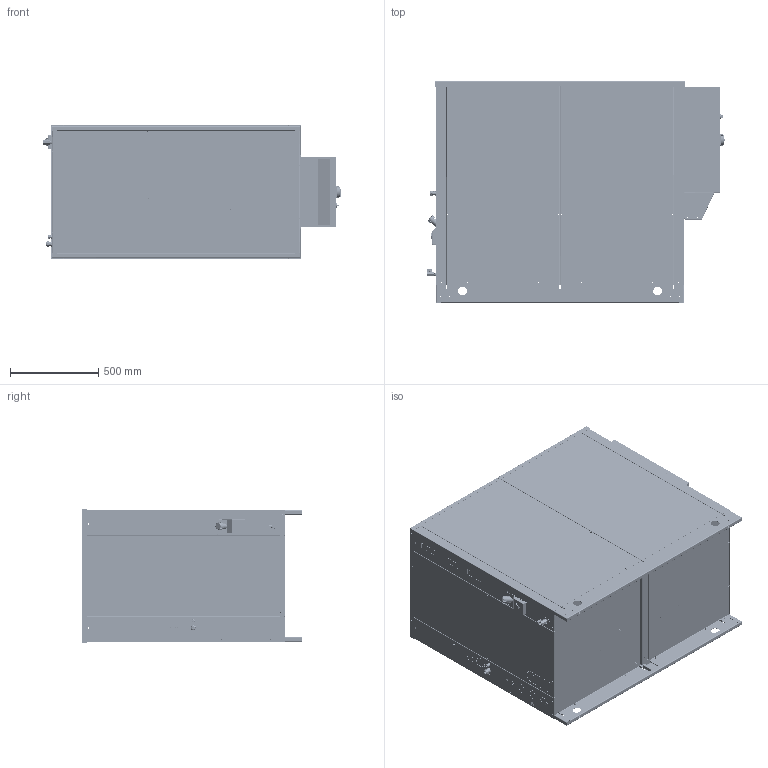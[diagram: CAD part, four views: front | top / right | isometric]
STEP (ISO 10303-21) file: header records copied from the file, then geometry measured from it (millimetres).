
FILE_DESCRIPTION (( 'STEP AP203' ), '1' );
FILE_NAME ('W-SCW_F3_UL_REV_00.STEP', '2026-07-22T13:36:16', ( '' ), ( '' ), 'SwSTEP 2.0', 'SolidWorks 2023', '' );
FILE_SCHEMA (( 'CONFIG_CONTROL_DESIGN' ));
Length unit declared in the file: millimetre
Products named in the file (42): VA-A5-00001; CR-2D-00004_001; VR-3F-00003_002; CR-3D-00005_000; PG 9_Cable-Gland-1.209.0900.14-Nelco; VR-2F-00010_000; CR-3F-00007_004; VR-3F-00011_000; CR-2F-00008_000; SE-RR-00025_000; CR-3F-00006_001A; CR-3F-00006_001; CR-3F-00008_001; PG 9_1_Socket-1.209.0900.14-Nelco; VR-2F-00011_000; CR-3F-00009_001; PG-16; SEZIONATORE-GR_D2; SE-RP-00013; VR-2F-00007_004; VR-3F-00010_000; VR-2F-00006_003; W-SCW_F3_UL_REV_00; CASSA UL 600X400X200; CR-3D-00004_001; SELETTORE_NERO; VR-2D-00034_001; IN-VI-00001; CR-3F-00005_002; CR-3D-00010_001; VR-3F-00002_002; FILETTO_RUBINETTO_VA-A5-00001; VR-2F-00005_003; PG 9_2_Nut-PA-Grey-19-19-22-Nelco; VR-2F-00008_003; TE-EL-00018; CR-3F-00006_001B; RIVELOX M5; TAPPO 1P  FEM ; ING_TC_M5X25
Assembly tree (78 placements, depth 3):
  W-SCW_F3_UL_REV_00
    VR-3F-00003_002
      VR-3F-00003_002
      RIVELOX M5  x32
    VR-2F-00005_003
    VR-2F-00006_003
    VR-2F-00007_004
    VR-2F-00008_003
    VR-2F-00010_000
    VR-2F-00011_000
    CR-3F-00008_001  x2
    CR-3F-00009_001
    CR-3F-00005_002
    VR-3F-00010_000
    CR-3F-00007_004
    VR-3F-00002_002  x3
    CR-3D-00004_001
    CR-3D-00005_000  x2
    CR-2D-00004_001  x2
    CR-3D-00010_001
    CR-2F-00008_000
    CR-3F-00006_001
      CR-3F-00006_001A
      CR-3F-00006_001B
    ING_TC_M5X25  x2
    VR-3F-00011_000
    PG 9_Cable-Gland-1.209.0900.14-Nelco
      PG 9_1_Socket-1.209.0900.14-Nelco
      PG 9_2_Nut-PA-Grey-19-19-22-Nelco
    PG-16
    IN-VI-00001
    TAPPO 1P  FEM 
    SE-RP-00013
    VA-A5-00001
    FILETTO_RUBINETTO_VA-A5-00001
    CASSA UL 600X400X200
      CASSA UL 600X400X200
      VR-2D-00034_001
      SE-RR-00025_000
      TE-EL-00018
      SELETTORE_NERO
      SEZIONATORE-GR_D2
Bounding box: 1695.69 x 1254.2 x 757 mm (x, y, z)
Volume: 71626280 mm3; surface area: 26053787 mm2
Topology: 178 solids, 271 shells, 8046 faces, 20700 edges, 13125 vertices
Faces by surface type: plane 5024, cylinder 2298, cone 296, bspline 284, torus 87, sphere 57
Entity records: 251732 total; most frequent: CARTESIAN_POINT 69730, ORIENTED_EDGE 36668, DIRECTION 35262, EDGE_CURVE 18554, VECTOR 12734, LINE 12734, VERTEX_POINT 11831, AXIS2_PLACEMENT_3D 11264
